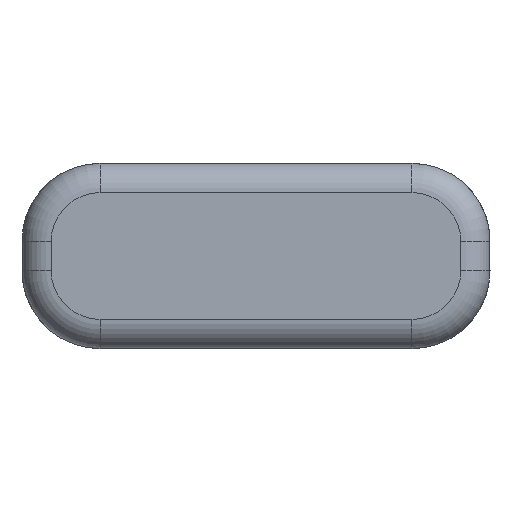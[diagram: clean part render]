
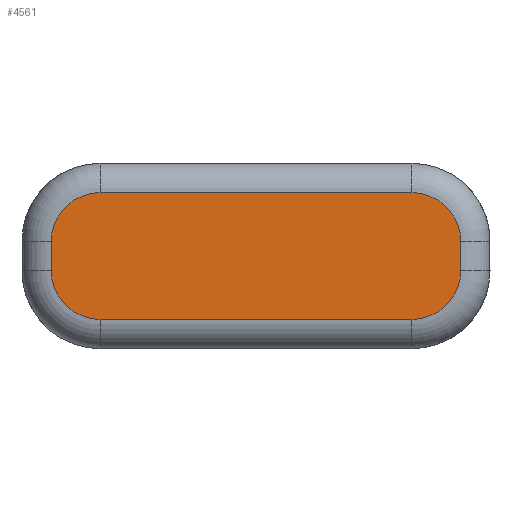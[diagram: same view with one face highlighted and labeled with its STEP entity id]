
A CAD part, left-side view. The second image highlights one B-rep face of the part: STEP entity #4561.
In plain terms, the highlighted planar face has unit normal (-1, 0, 0).
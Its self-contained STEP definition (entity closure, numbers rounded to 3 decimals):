
#234 = CIRCLE ( 'NONE', #5834, 2.5 ) ;
#323 = ORIENTED_EDGE ( 'NONE', *, *, #4747, .T. ) ;
#479 = VECTOR ( 'NONE', #1407, 1000. ) ;
#599 = CARTESIAN_POINT ( 'NONE',  ( -32.5, 8., 4. ) ) ;
#609 = DIRECTION ( 'NONE',  ( 0., 1., 0. ) ) ;
#800 = CARTESIAN_POINT ( 'NONE',  ( -32.5, -8., 5.5 ) ) ;
#1220 = VERTEX_POINT ( 'NONE', #4011 ) ;
#1295 = CARTESIAN_POINT ( 'NONE',  ( -32.5, 8., 8. ) ) ;
#1407 = DIRECTION ( 'NONE',  ( 0., 0., -1. ) ) ;
#1538 = CARTESIAN_POINT ( 'NONE',  ( -32.5, 8., 1.5 ) ) ;
#2108 = DIRECTION ( 'NONE',  ( 0., 0., 1. ) ) ;
#2457 = DIRECTION ( 'NONE',  ( -1., 0., 0. ) ) ;
#2557 = CIRCLE ( 'NONE', #8154, 2.5 ) ;
#2581 = ORIENTED_EDGE ( 'NONE', *, *, #2988, .T. ) ;
#2691 = DIRECTION ( 'NONE',  ( 0., 0., -1. ) ) ;
#2988 = EDGE_CURVE ( 'NONE', #7502, #6273, #2557, .T. ) ;
#3013 = EDGE_LOOP ( 'NONE', ( #6335, #323, #6913, #9209, #3495, #2581, #3313, #6369 ) ) ;
#3189 = VERTEX_POINT ( 'NONE', #5858 ) ;
#3313 = ORIENTED_EDGE ( 'NONE', *, *, #5411, .T. ) ;
#3495 = ORIENTED_EDGE ( 'NONE', *, *, #4699, .T. ) ;
#3620 = DIRECTION ( 'NONE',  ( 0., 0., -1. ) ) ;
#3658 = EDGE_CURVE ( 'NONE', #9303, #1220, #7168, .T. ) ;
#3732 = DIRECTION ( 'NONE',  ( 0., 0., -1. ) ) ;
#3808 = EDGE_CURVE ( 'NONE', #6290, #5830, #9149, .T. ) ;
#3855 = DIRECTION ( 'NONE',  ( 0., 0., -1. ) ) ;
#3955 = DIRECTION ( 'NONE',  ( -1., 0., 0. ) ) ;
#4011 = CARTESIAN_POINT ( 'NONE',  ( -32.5, -8., 1.5 ) ) ;
#4033 = CARTESIAN_POINT ( 'NONE',  ( -32.5, -8., 1.5 ) ) ;
#4281 = CARTESIAN_POINT ( 'NONE',  ( -32.5, -10.5, 9.5 ) ) ;
#4472 = PLANE ( 'NONE',  #8678 ) ;
#4561 = ADVANCED_FACE ( 'NONE', ( #5391 ), #4472, .F. ) ;
#4657 = CARTESIAN_POINT ( 'NONE',  ( -32.5, -8., 4. ) ) ;
#4678 = DIRECTION ( 'NONE',  ( 0., 0., -1. ) ) ;
#4699 = EDGE_CURVE ( 'NONE', #3189, #7502, #9563, .T. ) ;
#4747 = EDGE_CURVE ( 'NONE', #5830, #9303, #7546, .T. ) ;
#4935 = DIRECTION ( 'NONE',  ( -1., 0., 0. ) ) ;
#5053 = DIRECTION ( 'NONE',  ( -1., 0., 0. ) ) ;
#5391 = FACE_OUTER_BOUND ( 'NONE', #3013, .T. ) ;
#5411 = EDGE_CURVE ( 'NONE', #6273, #8315, #8263, .T. ) ;
#5830 = VERTEX_POINT ( 'NONE', #9762 ) ;
#5834 = AXIS2_PLACEMENT_3D ( 'NONE', #7251, #4935, #2691 ) ;
#5858 = CARTESIAN_POINT ( 'NONE',  ( -32.5, -10.5, 4. ) ) ;
#6078 = EDGE_CURVE ( 'NONE', #8315, #6290, #234, .T. ) ;
#6273 = VERTEX_POINT ( 'NONE', #9556 ) ;
#6290 = VERTEX_POINT ( 'NONE', #6448 ) ;
#6335 = ORIENTED_EDGE ( 'NONE', *, *, #3808, .T. ) ;
#6354 = DIRECTION ( 'NONE',  ( 0., -1., 0. ) ) ;
#6369 = ORIENTED_EDGE ( 'NONE', *, *, #6078, .T. ) ;
#6448 = CARTESIAN_POINT ( 'NONE',  ( -32.5, 10.5, 5.5 ) ) ;
#6567 = EDGE_CURVE ( 'NONE', #1220, #3189, #7625, .T. ) ;
#6592 = VECTOR ( 'NONE', #2108, 1000. ) ;
#6835 = AXIS2_PLACEMENT_3D ( 'NONE', #4657, #3955, #3855 ) ;
#6909 = AXIS2_PLACEMENT_3D ( 'NONE', #599, #5053, #3620 ) ;
#6913 = ORIENTED_EDGE ( 'NONE', *, *, #3658, .T. ) ;
#7107 = VECTOR ( 'NONE', #609, 1000. ) ;
#7168 = LINE ( 'NONE', #4033, #9757 ) ;
#7251 = CARTESIAN_POINT ( 'NONE',  ( -32.5, 8., 5.5 ) ) ;
#7502 = VERTEX_POINT ( 'NONE', #9325 ) ;
#7546 = CIRCLE ( 'NONE', #6909, 2.5 ) ;
#7553 = CARTESIAN_POINT ( 'NONE',  ( -32.5, 12., 9.5 ) ) ;
#7625 = CIRCLE ( 'NONE', #6835, 2.5 ) ;
#7642 = CARTESIAN_POINT ( 'NONE',  ( -32.5, 10.5, 9.5 ) ) ;
#8079 = CARTESIAN_POINT ( 'NONE',  ( -32.5, 12., 8. ) ) ;
#8154 = AXIS2_PLACEMENT_3D ( 'NONE', #800, #2457, #4678 ) ;
#8263 = LINE ( 'NONE', #8079, #7107 ) ;
#8315 = VERTEX_POINT ( 'NONE', #1295 ) ;
#8678 = AXIS2_PLACEMENT_3D ( 'NONE', #7553, #9918, #3732 ) ;
#9149 = LINE ( 'NONE', #7642, #479 ) ;
#9209 = ORIENTED_EDGE ( 'NONE', *, *, #6567, .T. ) ;
#9303 = VERTEX_POINT ( 'NONE', #1538 ) ;
#9325 = CARTESIAN_POINT ( 'NONE',  ( -32.5, -10.5, 5.5 ) ) ;
#9556 = CARTESIAN_POINT ( 'NONE',  ( -32.5, -8., 8. ) ) ;
#9563 = LINE ( 'NONE', #4281, #6592 ) ;
#9757 = VECTOR ( 'NONE', #6354, 1000. ) ;
#9762 = CARTESIAN_POINT ( 'NONE',  ( -32.5, 10.5, 4. ) ) ;
#9918 = DIRECTION ( 'NONE',  ( 1., 0., 0. ) ) ;
